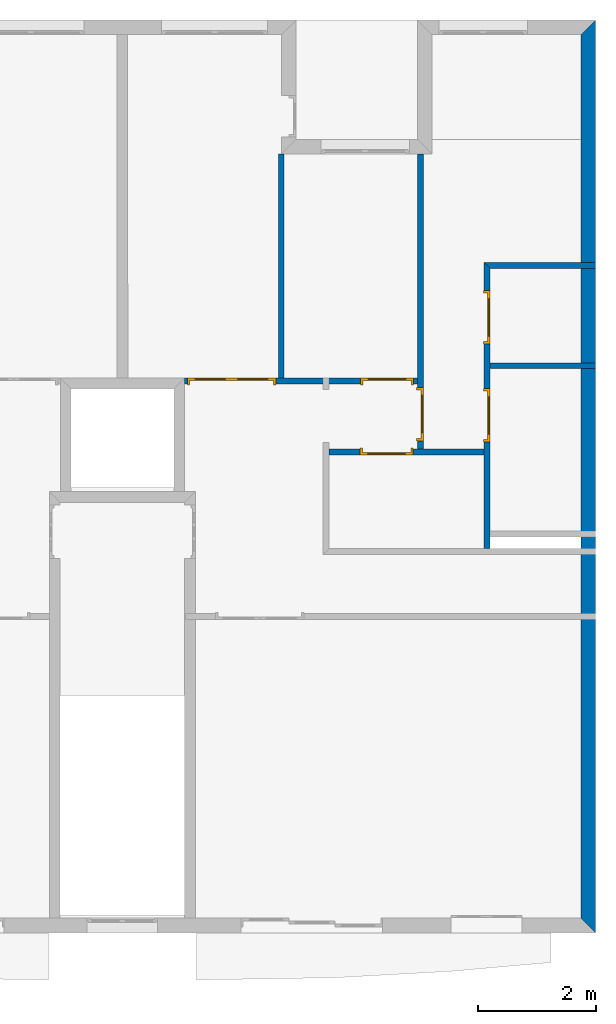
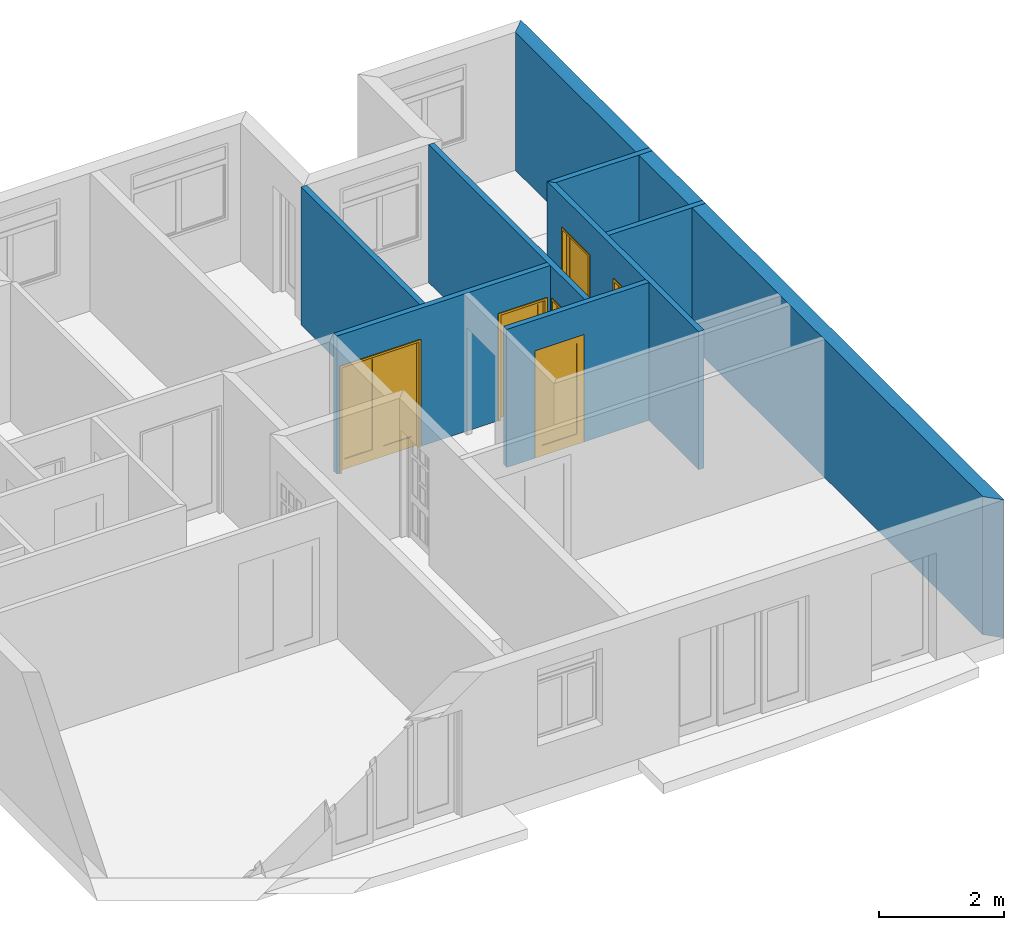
# One storey, part 9 of 11: 8 walls, 6 doors, 6 openings.
"""IFC2X3 building model written with IfcOpenShell, lengths in metres."""

from ifc_helpers import new_model, entity, si_unit, converted_unit, direction, frame, frame_2d, origin_with_axes, place, context, project, spatial, polyline, rectangle, outline, extrude, faceted_brep, source, transform, mapped, material, layer, layer_set, layer_usage, type_object, element, fill, save


model = new_model("IFC2X3")

# Units and contexts
context_of_model = context(None, 3, precision=1e-05, world=origin_with_axes(), true_north=direction((6.123234e-17, 1.0)))
plan_context = context("Plan", 3, precision=1e-05, world=origin_with_axes(), true_north=direction((6.123234e-17, 1.0)))
model_context = context("Model", 3, precision=1e-05, world=origin_with_axes(), true_north=direction((6.123234e-17, 1.0)))
ifc_project = project(units=[si_unit("LENGTHUNIT", "METRE"), si_unit("AREAUNIT", "SQUARE_METRE"), si_unit("VOLUMEUNIT", "CUBIC_METRE"), converted_unit("PLANEANGLEUNIT", "DEGREE", entity("IfcPlaneAngleMeasure", 0.017453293), si_unit("PLANEANGLEUNIT", "RADIAN"), dimensions=[0, 0, 0, 0, 0, 0, 0]), si_unit("SOLIDANGLEUNIT", "STERADIAN"), si_unit("MASSUNIT", "GRAM"), si_unit("TIMEUNIT", "SECOND"), si_unit("THERMODYNAMICTEMPERATUREUNIT", "DEGREE_CELSIUS"), si_unit("LUMINOUSINTENSITYUNIT", "LUMEN")], contexts=[context_of_model, plan_context, model_context])

# Site, building, storey
site_placement = place(None, origin_with_axes())
site = spatial("IfcSite", under=ifc_project, at=site_placement, Name="Por defecto Sitio", CompositionType="ELEMENT")
building_placement = place(site_placement, origin_with_axes())
building = spatial("IfcBuilding", under=site, at=building_placement, Name="Por defecto Edificio", CompositionType="ELEMENT")
storey_placement = place(building_placement, frame((0.0, 0.0, 13.2), z_axis=(0.0, 0.0, 1.0), x_axis=(1.0, 0.0, 0.0)))
storey = spatial("IfcBuildingStorey", under=building, at=storey_placement, Name="Cuarta", CompositionType="ELEMENT", Elevation=13.2)

# Walls
ifc_material_1 = material(Name="Doble 1:4")
ifc_layer_1 = layer(ifc_material_1, 0.25, ventilated="UNKNOWN")
ifc_layer_set_1 = layer_set([ifc_layer_1], Name="Doble 1:4")
ifc_layer_usage_1 = layer_usage(ifc_layer_set_1, "AXIS2", "NEGATIVE", 0.0)
wall_type_1 = type_object("IfcWallType", Name="Doble 1:4", PredefinedType="NOTDEFINED")
wall_1_placement = place(storey_placement, frame((16.03417, 15.472599, 0.0), z_axis=(0.0, 0.0, 1.0), x_axis=(-1.699138e-14, -1.0, 0.0)))
element("IfcWallStandardCase", 1, at=wall_1_placement, inside=storey, type_object=wall_type_1, material=ifc_layer_usage_1, Name="Muro-017", context=context_of_model, shape_type="SweptSolid", body=[
    extrude(outline(polyline([(0.25, -0.25), (15.222599, -0.25), (15.472599, 0.0), (0.0, 0.0), (0.25, -0.25)])), origin_with_axes(), (0.0, 0.0, 1.0), 2.7),
])
ifc_material_2 = material(Name="Ladrillo común")
ifc_layer_2 = layer(ifc_material_2, 0.1, ventilated="UNKNOWN")
ifc_layer_set_2 = layer_set([ifc_layer_2], Name="Ladrillo común")
ifc_layer_usage_2 = layer_usage(ifc_layer_set_2, "AXIS2", "NEGATIVE", 0.0)
wall_type_2 = type_object("IfcWallType", Name="Ladrillo común", PredefinedType="NOTDEFINED")
wall_2_placement = place(storey_placement, frame((10.656053, 9.4007615, 0.0), z_axis=(0.0, 0.0, 1.0), x_axis=(0.0, 1.0, 0.0)))
element("IfcWallStandardCase", 2, at=wall_2_placement, inside=storey, type_object=wall_type_2, material=ifc_layer_usage_2, Name="Muro-026", context=context_of_model, shape_type="SweptSolid", body=[
    extrude(outline(polyline([(0.0, -0.1), (3.7984111, -0.1), (3.7984111, 0.0), (0.0, 0.0), (0.0, -0.1)])), origin_with_axes(), (0.0, 0.0, 1.0), 2.7),
])

# Wall, openings, doors
ifc_layer_usage_3 = layer_usage(ifc_layer_set_2, "AXIS2", "NEGATIVE", 0.0)
wall_3_placement = place(storey_placement, frame((9.065, 9.4007615, 0.0), z_axis=(0.0, 0.0, 1.0), x_axis=(0.99999999, 0.00012707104, 0.0)))
wall_3 = element("IfcWallStandardCase", 3, at=wall_3_placement, inside=storey, type_object=wall_type_2, material=ifc_layer_usage_3, Name="Muro-025", context=context_of_model, shape_type="SweptSolid", body=[
    extrude(outline(polyline([(-1.2707104e-05, -0.1), (3.9502128, -0.1), (3.9502128, -1.7763568e-15), (0.0, 0.0), (-1.2707104e-05, -0.1)])), origin_with_axes(), (0.0, 0.0, 1.0), 2.7),
])
opening_1_placement = place(wall_3_placement, frame((0.79761164, -0.1, 0.0), z_axis=(0.0, 0.0, 1.0), x_axis=(1.0, 0.0, 0.0)))
opening_1 = element("IfcOpeningElement", 4, at=opening_1_placement, cuts=wall_3, ObjectType="Opening", context=model_context, shape_type="SweptSolid", body=[
    extrude(rectangle(XDim=1.5, YDim=2.1, at=frame_2d((-3.5527137e-15, 1.05), x_axis=(-1.0, 0.0))), frame((0.0, 0.0, 0.0), z_axis=(0.0, 1.0, 0.0), x_axis=(-1.0, 0.0, 0.0)), (0.0, 0.0, 1.0), 0.1),
])
opening_2_placement = place(wall_3_placement, frame((3.4353753, -0.1, 0.0), z_axis=(0.0, 0.0, 1.0), x_axis=(1.0, 0.0, 0.0)))
opening_2 = element("IfcOpeningElement", 5, at=opening_2_placement, cuts=wall_3, ObjectType="Opening", context=model_context, shape_type="SweptSolid", body=[
    extrude(rectangle(XDim=0.9, YDim=2.1, at=frame_2d((-8.8817842e-16, 1.05), x_axis=(-1.0, 0.0))), frame((0.0, 0.0, 0.0), z_axis=(0.0, 1.0, 0.0), x_axis=(-1.0, 0.0, 0.0)), (0.0, 0.0, 1.0), 0.1),
])
door_style_1 = type_object("IfcDoorStyle", Name="P1 12", ConstructionType="NOTDEFINED", OperationType="SINGLE_SWING_RIGHT", ParameterTakesPrecedence=False, Sizeable=False)
shared_shape_1 = source(origin_with_axes(), model_context, "Body", "Brep", [
    faceted_brep([(0.04, 0.075, -2.4492936e-18), (0.04, 0.075, 2.06), (0.04, -9.3258734e-14, 2.06), (0.04, -9.3258734e-14, -7.0417191e-18), (0.028, 0.075, 2.06), (0.028, 0.075, -2.4492936e-18), (0.028, 0.115, 2.06), (2.220446e-16, 0.115, 2.06), (1.7763568e-15, -9.4146912e-14, 2.06), (0.0, 0.0, 0.0), (2.220446e-16, 0.115, 3.3744595e-33), (0.028, 0.115, 3.2707143e-33)], [[[0, 1, 2, 3]], [[4, 1, 0, 5]], [[4, 6, 7, 8, 2, 1]], [[9, 3, 2, 8]], [[5, 0, 3, 9, 10, 11]], [[6, 4, 5, 11]], [[6, 11, 10, 7]], [[8, 7, 10, 9]]]),
    faceted_brep([(0.872, 0.075, 2.06), (0.86, 0.075, 2.06), (0.86, -8.0824236e-14, 2.06), (0.9, -7.9936058e-14, 2.06), (0.9, 0.115, 2.06), (0.872, 0.115, 2.06), (0.872, 0.075, -2.4492936e-18), (0.86, 0.075, -2.4492936e-18), (0.86, -8.0824236e-14, -7.0417191e-18), (0.9, -7.9936058e-14, -7.0417191e-18), (0.9, 0.115, -3.3744595e-33), (0.872, 0.115, -3.1644931e-33)], [[[0, 1, 2, 3, 4, 5]], [[1, 0, 6, 7]], [[1, 7, 8, 2]], [[8, 9, 3, 2]], [[9, 10, 4, 3]], [[11, 5, 4, 10]], [[0, 5, 11, 6]], [[6, 11, 10, 9, 8, 7]]]),
    faceted_brep([(0.028, 0.115, 2.072), (0.028, 0.115, 2.06), (2.220446e-16, 0.115, 2.06), (2.220446e-16, 0.115, 2.1), (0.9, 0.115, 2.1), (0.9, 0.115, 2.06), (0.872, 0.115, 2.06), (0.872, 0.115, 2.072), (0.028, 0.075, 2.072), (0.028, 0.075, 2.06), (0.04, 0.075, 2.06), (0.04, -9.3258734e-14, 2.06), (1.7763568e-15, -9.4146912e-14, 2.06), (1.7763568e-15, -9.4146912e-14, 2.1), (0.9, -7.9936058e-14, 2.1), (0.9, -7.9936058e-14, 2.06), (0.872, 0.075, 2.06), (0.86, -8.0824236e-14, 2.06), (0.86, 0.075, 2.06), (0.872, 0.075, 2.072)], [[[0, 1, 2, 3, 4, 5, 6, 7]], [[1, 0, 8, 9]], [[9, 10, 11, 12, 2, 1]], [[13, 3, 2, 12]], [[14, 4, 3, 13]], [[15, 5, 4, 14]], [[16, 6, 5, 15, 17, 18]], [[7, 6, 16, 19]], [[0, 7, 19, 8]], [[16, 18, 10, 9, 8, 19]], [[10, 18, 17, 11]], [[14, 13, 12, 11, 17, 15]]]),
    faceted_brep([(0.872, 0.115, 0.2), (0.872, 0.075, 0.2), (0.772, 0.075, 0.2), (0.772, 0.115, 0.2), (0.872, 0.115, 1.972), (0.872, 0.075, 1.972), (0.772, 0.075, 1.972), (0.772, 0.115, 1.972)], [[[0, 1, 2, 3]], [[4, 5, 1, 0]], [[1, 5, 6, 2]], [[3, 2, 6, 7]], [[0, 3, 7, 4]], [[7, 6, 5, 4]]]),
    faceted_brep([(0.028, 0.115, 0.2), (0.028, 0.075, 0.2), (0.028, 0.075, 1.972), (0.028, 0.115, 1.972), (0.128, 0.115, 0.2), (0.128, 0.075, 0.2), (0.128, 0.075, 1.972), (0.128, 0.115, 1.972)], [[[0, 1, 2, 3]], [[4, 5, 1, 0]], [[1, 5, 6, 2]], [[3, 2, 6, 7]], [[0, 3, 7, 4]], [[7, 6, 5, 4]]]),
    faceted_brep([(0.872, 0.115, -3.1644931e-33), (0.872, 0.075, -2.4492936e-18), (0.028, 0.075, -2.4492936e-18), (0.028, 0.115, 3.1644931e-33), (0.872, 0.115, 0.2), (0.872, 0.075, 0.2), (0.772, 0.075, 0.2), (0.128, 0.075, 0.2), (0.028, 0.075, 0.2), (0.028, 0.115, 0.2), (0.128, 0.115, 0.2), (0.772, 0.115, 0.2)], [[[0, 1, 2, 3]], [[4, 5, 1, 0]], [[1, 5, 6, 7, 8, 2]], [[3, 2, 8, 9]], [[0, 3, 9, 10, 11, 4]], [[11, 6, 5, 4]], [[10, 7, 6, 11]], [[9, 8, 7, 10]]]),
    faceted_brep([(0.872, 0.115, 2.072), (0.872, 0.075, 2.072), (0.872, 0.075, 1.972), (0.872, 0.115, 1.972), (0.028, 0.115, 2.072), (0.028, 0.075, 2.072), (0.028, 0.075, 1.972), (0.128, 0.075, 1.972), (0.772, 0.075, 1.972), (0.772, 0.115, 1.972), (0.128, 0.115, 1.972), (0.028, 0.115, 1.972)], [[[0, 1, 2, 3]], [[4, 5, 1, 0]], [[1, 5, 6, 7, 8, 2]], [[3, 2, 8, 9]], [[0, 3, 9, 10, 11, 4]], [[11, 6, 5, 4]], [[10, 7, 6, 11]], [[9, 8, 7, 10]]]),
    faceted_brep([(0.772, 0.101, 0.2), (0.772, 0.089, 0.2), (0.128, 0.089, 0.2), (0.128, 0.101, 0.2), (0.772, 0.101, 1.972), (0.772, 0.089, 1.972), (0.128, 0.089, 1.972), (0.128, 0.101, 1.972)], [[[0, 1, 2, 3]], [[4, 5, 1, 0]], [[1, 5, 6, 2]], [[3, 2, 6, 7]], [[0, 3, 7, 4]], [[7, 6, 5, 4]]]),
])
door_1_placement = place(opening_2_placement, frame((-0.45, -0.015, 0.0), z_axis=(0.0, 0.0, 1.0), x_axis=(1.0, 0.0, 0.0)))
door_1 = element("IfcDoor", 6, at=door_1_placement, inside=storey, type_object=door_style_1, Name="P23", OverallHeight=2.1, OverallWidth=0.9, context=model_context, shape_type="MappedRepresentation", body=[
    mapped(shared_shape_1, transform((0.0, 0.0, 0.0), scale=1.0)),
])
fill(opening_2, door_1)
door_style_2 = type_object("IfcDoorStyle", Name="P2 12", ConstructionType="NOTDEFINED", OperationType="DOUBLE_DOOR_SINGLE_SWING", ParameterTakesPrecedence=False, Sizeable=False)
shared_shape_2 = source(origin_with_axes(), model_context, "Body", "Brep", [
    faceted_brep([(1.46, 0.075, 0.0), (1.46, 1.7763568e-15, 0.0), (1.46, 1.7763568e-15, 2.06), (1.46, 0.075, 2.06), (1.472, 0.075, 0.0), (1.472, 0.115, 0.0), (1.5, 0.115, 0.0), (1.5, 1.7763568e-15, 0.0), (1.5, 1.7763568e-15, 2.06), (1.472, 0.075, 2.06), (1.5, 0.115, 2.06), (1.472, 0.115, 2.06)], [[[0, 1, 2, 3]], [[4, 5, 6, 7, 1, 0]], [[7, 8, 2, 1]], [[9, 3, 2, 8, 10, 11]], [[9, 4, 0, 3]], [[11, 5, 4, 9]], [[11, 10, 6, 5]], [[8, 7, 6, 10]]]),
    faceted_brep([(0.028, 0.075, 2.06), (0.028, 0.115, 2.06), (1.7763568e-15, 0.115, 2.06), (-1.7763568e-15, 0.0, 2.06), (0.04, 1.7763568e-15, 2.06), (0.04, 0.075, 2.06), (0.028, 0.075, 0.0), (0.028, 0.115, 0.0), (1.7763568e-15, 0.115, 0.0), (0.0, 0.0, 0.0), (0.04, 1.7763568e-15, 0.0), (0.04, 0.075, 0.0)], [[[0, 1, 2, 3, 4, 5]], [[0, 6, 7, 1]], [[7, 8, 2, 1]], [[9, 3, 2, 8]], [[10, 4, 3, 9]], [[5, 4, 10, 11]], [[5, 11, 6, 0]], [[6, 11, 10, 9, 8, 7]]]),
    faceted_brep([(1.472, 0.115, 2.072), (0.028, 0.115, 2.072), (0.028, 0.115, 2.06), (1.7763568e-15, 0.115, 2.06), (1.7763568e-15, 0.115, 2.1), (1.5, 0.115, 2.1), (1.5, 0.115, 2.06), (1.472, 0.115, 2.06), (1.472, 0.075, 2.072), (0.028, 0.075, 2.072), (0.028, 0.075, 2.06), (0.04, 0.075, 2.06), (0.04, 1.7763568e-15, 2.06), (-1.7763568e-15, 0.0, 2.06), (-1.7763568e-15, 0.0, 2.1), (1.5, 1.7763568e-15, 2.1), (1.5, 1.7763568e-15, 2.06), (1.472, 0.075, 2.06), (1.46, 1.7763568e-15, 2.06), (1.46, 0.075, 2.06)], [[[0, 1, 2, 3, 4, 5, 6, 7]], [[0, 8, 9, 1]], [[1, 9, 10, 2]], [[10, 11, 12, 13, 3, 2]], [[13, 14, 4, 3]], [[14, 15, 5, 4]], [[15, 16, 6, 5]], [[17, 7, 6, 16, 18, 19]], [[7, 17, 8, 0]], [[10, 9, 8, 17, 19, 11]], [[19, 18, 12, 11]], [[14, 13, 12, 18, 16, 15]]]),
    faceted_brep([(0.028, 0.115, 0.2), (0.128, 0.115, 0.2), (0.128, 0.075, 0.2), (0.028, 0.075, 0.2), (0.028, 0.115, 1.972), (0.128, 0.115, 1.972), (0.128, 0.075, 1.972), (0.028, 0.075, 1.972)], [[[0, 1, 2, 3]], [[0, 4, 5, 1]], [[1, 5, 6, 2]], [[3, 2, 6, 7]], [[4, 0, 3, 7]], [[5, 4, 7, 6]]]),
    faceted_brep([(0.749, 0.115, 0.2), (0.749, 0.115, 1.972), (0.749, 0.075, 1.972), (0.749, 0.075, 0.2), (0.649, 0.115, 0.2), (0.649, 0.115, 1.972), (0.649, 0.075, 1.972), (0.649, 0.075, 0.2)], [[[0, 1, 2, 3]], [[0, 4, 5, 1]], [[1, 5, 6, 2]], [[3, 2, 6, 7]], [[4, 0, 3, 7]], [[5, 4, 7, 6]]]),
    faceted_brep([(0.028, 0.115, 0.0), (0.749, 0.115, 0.0), (0.749, 0.075, 0.0), (0.028, 0.075, 0.0), (0.028, 0.115, 0.2), (0.128, 0.115, 0.2), (0.649, 0.115, 0.2), (0.749, 0.115, 0.2), (0.749, 0.075, 0.2), (0.649, 0.075, 0.2), (0.128, 0.075, 0.2), (0.028, 0.075, 0.2)], [[[0, 1, 2, 3]], [[0, 4, 5, 6, 7, 1]], [[1, 7, 8, 2]], [[3, 2, 8, 9, 10, 11]], [[4, 0, 3, 11]], [[5, 4, 11, 10]], [[6, 5, 10, 9]], [[7, 6, 9, 8]]]),
    faceted_brep([(0.028, 0.115, 2.072), (0.028, 0.115, 1.972), (0.028, 0.075, 1.972), (0.028, 0.075, 2.072), (0.749, 0.115, 2.072), (0.749, 0.115, 1.972), (0.649, 0.115, 1.972), (0.128, 0.115, 1.972), (0.128, 0.075, 1.972), (0.649, 0.075, 1.972), (0.749, 0.075, 1.972), (0.749, 0.075, 2.072)], [[[0, 1, 2, 3]], [[0, 4, 5, 6, 7, 1]], [[1, 7, 8, 2]], [[3, 2, 8, 9, 10, 11]], [[4, 0, 3, 11]], [[5, 4, 11, 10]], [[6, 5, 10, 9]], [[7, 6, 9, 8]]]),
    faceted_brep([(0.128, 0.101, 0.2), (0.649, 0.101, 0.2), (0.649, 0.089, 0.2), (0.128, 0.089, 0.2), (0.128, 0.101, 1.972), (0.649, 0.101, 1.972), (0.649, 0.089, 1.972), (0.128, 0.089, 1.972)], [[[0, 1, 2, 3]], [[0, 4, 5, 1]], [[1, 5, 6, 2]], [[3, 2, 6, 7]], [[4, 0, 3, 7]], [[5, 4, 7, 6]]]),
    faceted_brep([(1.472, 0.115, 0.2), (1.472, 0.075, 0.2), (1.372, 0.075, 0.2), (1.372, 0.115, 0.2), (1.472, 0.115, 1.972), (1.472, 0.075, 1.972), (1.372, 0.075, 1.972), (1.372, 0.115, 1.972)], [[[0, 1, 2, 3]], [[4, 5, 1, 0]], [[1, 5, 6, 2]], [[3, 2, 6, 7]], [[0, 3, 7, 4]], [[7, 6, 5, 4]]]),
    faceted_brep([(0.751, 0.115, 0.2), (0.751, 0.075, 0.2), (0.751, 0.075, 1.972), (0.751, 0.115, 1.972), (0.851, 0.115, 0.2), (0.851, 0.075, 0.2), (0.851, 0.075, 1.972), (0.851, 0.115, 1.972)], [[[0, 1, 2, 3]], [[4, 5, 1, 0]], [[1, 5, 6, 2]], [[3, 2, 6, 7]], [[0, 3, 7, 4]], [[7, 6, 5, 4]]]),
    faceted_brep([(1.472, 0.115, 0.0), (1.472, 0.075, 0.0), (0.751, 0.075, 0.0), (0.751, 0.115, 0.0), (1.472, 0.115, 0.2), (1.472, 0.075, 0.2), (1.372, 0.075, 0.2), (0.851, 0.075, 0.2), (0.751, 0.075, 0.2), (0.751, 0.115, 0.2), (0.851, 0.115, 0.2), (1.372, 0.115, 0.2)], [[[0, 1, 2, 3]], [[4, 5, 1, 0]], [[1, 5, 6, 7, 8, 2]], [[3, 2, 8, 9]], [[0, 3, 9, 10, 11, 4]], [[11, 6, 5, 4]], [[10, 7, 6, 11]], [[9, 8, 7, 10]]]),
    faceted_brep([(1.472, 0.115, 2.072), (1.472, 0.075, 2.072), (1.472, 0.075, 1.972), (1.472, 0.115, 1.972), (0.751, 0.115, 2.072), (0.751, 0.075, 2.072), (0.751, 0.075, 1.972), (0.851, 0.075, 1.972), (1.372, 0.075, 1.972), (1.372, 0.115, 1.972), (0.851, 0.115, 1.972), (0.751, 0.115, 1.972)], [[[0, 1, 2, 3]], [[4, 5, 1, 0]], [[1, 5, 6, 7, 8, 2]], [[3, 2, 8, 9]], [[0, 3, 9, 10, 11, 4]], [[11, 6, 5, 4]], [[10, 7, 6, 11]], [[9, 8, 7, 10]]]),
    faceted_brep([(1.372, 0.101, 0.2), (1.372, 0.089, 0.2), (0.851, 0.089, 0.2), (0.851, 0.101, 0.2), (1.372, 0.101, 1.972), (1.372, 0.089, 1.972), (0.851, 0.089, 1.972), (0.851, 0.101, 1.972)], [[[0, 1, 2, 3]], [[4, 5, 1, 0]], [[1, 5, 6, 2]], [[3, 2, 6, 7]], [[0, 3, 7, 4]], [[7, 6, 5, 4]]]),
])
door_2_placement = place(opening_1_placement, frame((-0.75, -0.015, 0.0), z_axis=(0.0, 0.0, 1.0), x_axis=(1.0, 0.0, 0.0)))
door_2 = element("IfcDoor", 7, at=door_2_placement, inside=storey, type_object=door_style_2, Name="P28", OverallHeight=2.1, OverallWidth=1.5, context=model_context, shape_type="MappedRepresentation", body=[
    mapped(shared_shape_2, transform((0.0, 0.0, 0.0), scale=1.0)),
])
fill(opening_1, door_2)

# Wall, opening, door
ifc_layer_usage_4 = layer_usage(ifc_layer_set_2, "AXIS2", "NEGATIVE", 0.0)
wall_4_placement = place(storey_placement, frame((13.015324, 8.2017295, 0.0), z_axis=(0.0, 0.0, 1.0), x_axis=(-0.00022000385, 0.99999998, 0.0)))
wall_4 = element("IfcWallStandardCase", 8, at=wall_4_placement, inside=storey, type_object=wall_type_2, material=ifc_layer_usage_4, Name="Muro-024", context=context_of_model, shape_type="SweptSolid", body=[
    extrude(outline(polyline([(-1.2703415e-05, -0.1), (4.9974212, -0.1), (4.9974432, -1.7763568e-15), (3.5527137e-15, 0.0), (-1.2703415e-05, -0.1)])), origin_with_axes(), (0.0, 0.0, 1.0), 2.7),
])
opening_3_placement = place(wall_4_placement, frame((0.5886447, -0.1, 0.0), z_axis=(0.0, 0.0, 1.0), x_axis=(1.0, 0.0, 0.0)))
opening_3 = element("IfcOpeningElement", 9, at=opening_3_placement, cuts=wall_4, ObjectType="Opening", context=model_context, shape_type="SweptSolid", body=[
    extrude(rectangle(XDim=0.9, YDim=2.1, at=frame_2d((0.0, 1.05), x_axis=(-1.0, 0.0))), frame((0.0, 0.0, 0.0), z_axis=(0.0, 1.0, 0.0), x_axis=(-1.0, 0.0, 0.0)), (0.0, 0.0, 1.0), 0.1),
])
door_style_3 = type_object("IfcDoorStyle", Name="P1 12", ConstructionType="NOTDEFINED", OperationType="SINGLE_SWING_RIGHT", ParameterTakesPrecedence=False, Sizeable=False)
door_3_placement = place(opening_3_placement, frame((0.45, 0.115, 0.0), z_axis=(0.0, 0.0, 1.0), x_axis=(-1.0, 0.0, 0.0)))
door_3 = element("IfcDoor", 10, at=door_3_placement, inside=storey, type_object=door_style_3, Name="P22", OverallHeight=2.1, OverallWidth=0.9, context=model_context, shape_type="MappedRepresentation", body=[
    mapped(shared_shape_1, transform((0.0, 0.0, 0.0), scale=1.0)),
])
fill(opening_3, door_3)

# Walls
ifc_layer_usage_5 = layer_usage(ifc_layer_set_2, "AXIS2", "POSITIVE", 0.0)
wall_5_placement = place(storey_placement, frame((14.245066, 9.5615835, 0.0), z_axis=(0.0, 0.0, 1.0), x_axis=(1.0, 7.5775334e-05, 0.0)))
element("IfcWallStandardCase", 11, at=wall_5_placement, inside=storey, type_object=wall_type_2, material=ifc_layer_usage_5, Name="Muro-023", context=context_of_model, shape_type="SweptSolid", body=[
    extrude(outline(polyline([(0.0, 0.0), (1.7904599, 1.7763568e-15), (1.7904599, 0.1), (0.0, 0.1), (0.0, 0.0)])), origin_with_axes(), (0.0, 0.0, 1.0), 2.7),
])
ifc_layer_usage_6 = layer_usage(ifc_layer_set_2, "AXIS2", "POSITIVE", 0.0)
wall_6_placement = place(storey_placement, frame((14.244885, 11.261583, 0.0), z_axis=(0.0, 0.0, 1.0), x_axis=(1.0, 7.5775334e-05, 0.0)))
element("IfcWallStandardCase", 12, at=wall_6_placement, inside=storey, type_object=wall_type_2, material=ifc_layer_usage_6, Name="Muro-022", context=context_of_model, shape_type="SweptSolid", body=[
    extrude(outline(polyline([(1.7763568e-15, 0.0), (1.7905123, 0.0), (1.7905123, 0.1), (-0.10000221, 0.1), (1.7763568e-15, 0.0)])), origin_with_axes(), (0.0, 0.0, 1.0), 2.7),
])

# Wall, opening, door
ifc_layer_usage_7 = layer_usage(ifc_layer_set_2, "AXIS2", "NEGATIVE", 0.0)
wall_7_placement = place(storey_placement, frame((11.515376, 8.20159, 0.0), z_axis=(0.0, 0.0, 1.0), x_axis=(1.0, 9.2969701e-05, 0.0)))
wall_7 = element("IfcWallStandardCase", 13, at=wall_7_placement, inside=storey, type_object=wall_type_2, material=ifc_layer_usage_7, Name="Muro-024", context=context_of_model, shape_type="SweptSolid", body=[
    extrude(outline(polyline([(3.5527137e-15, -0.1), (2.6298085, -0.1), (2.629808, 1.7763568e-15), (0.0, 0.0), (3.5527137e-15, -0.1)])), origin_with_axes(), (0.0, 0.0, 1.0), 2.7),
])
opening_4_placement = place(wall_7_placement, frame((0.97653216, -0.1, 0.0), z_axis=(0.0, 0.0, 1.0), x_axis=(1.0, 0.0, 0.0)))
opening_4 = element("IfcOpeningElement", 14, at=opening_4_placement, cuts=wall_7, ObjectType="Opening", context=model_context, shape_type="SweptSolid", body=[
    extrude(rectangle(XDim=0.9, YDim=2.1, at=frame_2d((8.8817842e-16, 1.05), x_axis=(-1.0, 0.0))), frame((0.0, 0.0, 0.0), z_axis=(0.0, 1.0, 0.0), x_axis=(-1.0, 0.0, 0.0)), (0.0, 0.0, 1.0), 0.1),
])
door_style_4 = type_object("IfcDoorStyle", Name="P1 12", ConstructionType="NOTDEFINED", OperationType="SINGLE_SWING_LEFT", ParameterTakesPrecedence=False, Sizeable=False)
shared_shape_3 = source(origin_with_axes(), model_context, "Body", "Brep", [
    faceted_brep([(0.86, 0.075, -3.6739404e-18), (0.86, 0.0, 9.184851e-19), (0.86, 0.0, 2.06), (0.86, 0.075, 2.06), (0.872, 0.075, -3.6739404e-18), (0.872, 0.115, -6.123234e-18), (0.9, 0.115, -6.123234e-18), (0.9, 0.0, 9.184851e-19), (0.9, 0.0, 2.06), (0.872, 0.075, 2.06), (0.9, 0.115, 2.06), (0.872, 0.115, 2.06)], [[[0, 1, 2, 3]], [[4, 5, 6, 7, 1, 0]], [[7, 8, 2, 1]], [[9, 3, 2, 8, 10, 11]], [[9, 4, 0, 3]], [[11, 5, 4, 9]], [[11, 10, 6, 5]], [[8, 7, 6, 10]]]),
    faceted_brep([(0.028, 0.075, 2.06), (0.028, 0.115, 2.06), (0.0, 0.115, 2.06), (0.0, 0.0, 2.06), (0.04, 0.0, 2.06), (0.04, 0.075, 2.06), (0.028, 0.075, -3.6739404e-18), (0.028, 0.115, -6.123234e-18), (0.0, 0.115, -6.123234e-18), (0.0, 0.0, 0.0), (0.04, 0.0, 9.184851e-19), (0.04, 0.075, -3.6739404e-18)], [[[0, 1, 2, 3, 4, 5]], [[0, 6, 7, 1]], [[7, 8, 2, 1]], [[9, 3, 2, 8]], [[10, 4, 3, 9]], [[5, 4, 10, 11]], [[5, 11, 6, 0]], [[6, 11, 10, 9, 8, 7]]]),
    faceted_brep([(0.872, 0.115, 2.072), (0.028, 0.115, 2.072), (0.028, 0.115, 2.06), (0.0, 0.115, 2.06), (0.0, 0.115, 2.1), (0.9, 0.115, 2.1), (0.9, 0.115, 2.06), (0.872, 0.115, 2.06), (0.872, 0.075, 2.072), (0.028, 0.075, 2.072), (0.028, 0.075, 2.06), (0.04, 0.075, 2.06), (0.04, 0.0, 2.06), (0.0, 0.0, 2.06), (0.0, 0.0, 2.1), (0.9, 0.0, 2.1), (0.9, 0.0, 2.06), (0.872, 0.075, 2.06), (0.86, 0.0, 2.06), (0.86, 0.075, 2.06)], [[[0, 1, 2, 3, 4, 5, 6, 7]], [[0, 8, 9, 1]], [[1, 9, 10, 2]], [[10, 11, 12, 13, 3, 2]], [[13, 14, 4, 3]], [[14, 15, 5, 4]], [[15, 16, 6, 5]], [[17, 7, 6, 16, 18, 19]], [[7, 17, 8, 0]], [[10, 9, 8, 17, 19, 11]], [[19, 18, 12, 11]], [[14, 13, 12, 18, 16, 15]]]),
    faceted_brep([(0.028, 0.115, 0.2), (0.128, 0.115, 0.2), (0.128, 0.075, 0.2), (0.028, 0.075, 0.2), (0.028, 0.115, 1.972), (0.128, 0.115, 1.972), (0.128, 0.075, 1.972), (0.028, 0.075, 1.972)], [[[0, 1, 2, 3]], [[0, 4, 5, 1]], [[1, 5, 6, 2]], [[3, 2, 6, 7]], [[4, 0, 3, 7]], [[5, 4, 7, 6]]]),
    faceted_brep([(0.872, 0.115, 0.2), (0.872, 0.115, 1.972), (0.872, 0.075, 1.972), (0.872, 0.075, 0.2), (0.772, 0.115, 0.2), (0.772, 0.115, 1.972), (0.772, 0.075, 1.972), (0.772, 0.075, 0.2)], [[[0, 1, 2, 3]], [[0, 4, 5, 1]], [[1, 5, 6, 2]], [[3, 2, 6, 7]], [[4, 0, 3, 7]], [[5, 4, 7, 6]]]),
    faceted_brep([(0.028, 0.115, -6.123234e-18), (0.872, 0.115, -6.123234e-18), (0.872, 0.075, -3.6739404e-18), (0.028, 0.075, -3.6739404e-18), (0.028, 0.115, 0.2), (0.128, 0.115, 0.2), (0.772, 0.115, 0.2), (0.872, 0.115, 0.2), (0.872, 0.075, 0.2), (0.772, 0.075, 0.2), (0.128, 0.075, 0.2), (0.028, 0.075, 0.2)], [[[0, 1, 2, 3]], [[0, 4, 5, 6, 7, 1]], [[1, 7, 8, 2]], [[3, 2, 8, 9, 10, 11]], [[4, 0, 3, 11]], [[5, 4, 11, 10]], [[6, 5, 10, 9]], [[7, 6, 9, 8]]]),
    faceted_brep([(0.028, 0.115, 2.072), (0.028, 0.115, 1.972), (0.028, 0.075, 1.972), (0.028, 0.075, 2.072), (0.872, 0.115, 2.072), (0.872, 0.115, 1.972), (0.772, 0.115, 1.972), (0.128, 0.115, 1.972), (0.128, 0.075, 1.972), (0.772, 0.075, 1.972), (0.872, 0.075, 1.972), (0.872, 0.075, 2.072)], [[[0, 1, 2, 3]], [[0, 4, 5, 6, 7, 1]], [[1, 7, 8, 2]], [[3, 2, 8, 9, 10, 11]], [[4, 0, 3, 11]], [[5, 4, 11, 10]], [[6, 5, 10, 9]], [[7, 6, 9, 8]]]),
    faceted_brep([(0.128, 0.101, 0.2), (0.772, 0.101, 0.2), (0.772, 0.089, 0.2), (0.128, 0.089, 0.2), (0.128, 0.101, 1.972), (0.772, 0.101, 1.972), (0.772, 0.089, 1.972), (0.128, 0.089, 1.972)], [[[0, 1, 2, 3]], [[0, 4, 5, 1]], [[1, 5, 6, 2]], [[3, 2, 6, 7]], [[4, 0, 3, 7]], [[5, 4, 7, 6]]]),
])
door_4_placement = place(opening_4_placement, frame((0.45, 0.115, 0.0), z_axis=(0.0, 0.0, 1.0), x_axis=(-1.0, 0.0, 0.0)))
door_4 = element("IfcDoor", 15, at=door_4_placement, inside=storey, type_object=door_style_4, Name="P21", OverallHeight=2.1, OverallWidth=0.9, context=model_context, shape_type="MappedRepresentation", body=[
    mapped(shared_shape_3, transform((0.0, 0.0, 0.0), scale=1.0)),
])
fill(opening_4, door_4)

# Wall, openings, doors
ifc_layer_usage_8 = layer_usage(ifc_layer_set_2, "AXIS2", "NEGATIVE", 0.0)
wall_8_placement = place(storey_placement, frame((14.244885, 11.261583, 0.0), z_axis=(0.0, 0.0, 1.0), x_axis=(9.784722e-05, -1.0, 0.0)))
wall_8 = element("IfcWallStandardCase", 16, at=wall_8_placement, inside=storey, type_object=wall_type_2, material=ifc_layer_usage_8, Name="Muro-022", context=context_of_model, shape_type="SweptSolid", body=[
    extrude(outline(polyline([(-0.10000221, -0.1), (4.7497844, -0.1), (4.7497866, 1.7763568e-15), (1.7763568e-15, 0.0), (-0.10000221, -0.1)])), origin_with_axes(), (0.0, 0.0, 1.0), 2.7),
])
opening_5_placement = place(wall_8_placement, frame((2.4892688, -0.1, 0.0), z_axis=(0.0, 0.0, 1.0), x_axis=(1.0, 0.0, 0.0)))
opening_5 = element("IfcOpeningElement", 17, at=opening_5_placement, cuts=wall_8, ObjectType="Opening", context=model_context, shape_type="SweptSolid", body=[
    extrude(rectangle(XDim=0.9, YDim=2.1, at=frame_2d((8.8817842e-16, 1.05), x_axis=(-1.0, 0.0))), frame((0.0, 0.0, 0.0), z_axis=(0.0, 1.0, 0.0), x_axis=(-1.0, 0.0, 0.0)), (0.0, 0.0, 1.0), 0.1),
])
opening_6_placement = place(wall_8_placement, frame((0.827993, -0.1, 0.0), z_axis=(0.0, 0.0, 1.0), x_axis=(1.0, 0.0, 0.0)))
opening_6 = element("IfcOpeningElement", 18, at=opening_6_placement, cuts=wall_8, ObjectType="Opening", context=model_context, shape_type="SweptSolid", body=[
    extrude(rectangle(XDim=0.9, YDim=2.1, at=frame_2d((8.8817842e-16, 1.05), x_axis=(-1.0, 0.0))), frame((0.0, 0.0, 0.0), z_axis=(0.0, 1.0, 0.0), x_axis=(-1.0, 0.0, 0.0)), (0.0, 0.0, 1.0), 0.1),
])
door_style_5 = type_object("IfcDoorStyle", Name="P1 12", ConstructionType="NOTDEFINED", OperationType="SINGLE_SWING_RIGHT", ParameterTakesPrecedence=False, Sizeable=False)
door_5_placement = place(opening_5_placement, frame((-0.45, -0.015, 0.0), z_axis=(0.0, 0.0, 1.0), x_axis=(1.0, 0.0, 0.0)))
door_5 = element("IfcDoor", 19, at=door_5_placement, inside=storey, type_object=door_style_5, Name="P24", OverallHeight=2.1, OverallWidth=0.9, context=model_context, shape_type="MappedRepresentation", body=[
    mapped(shared_shape_1, transform((0.0, 0.0, 0.0), scale=1.0)),
])
fill(opening_5, door_5)
door_style_6 = type_object("IfcDoorStyle", Name="P1 12", ConstructionType="NOTDEFINED", OperationType="SINGLE_SWING_RIGHT", ParameterTakesPrecedence=False, Sizeable=False)
door_6_placement = place(opening_6_placement, frame((-0.45, -0.015, 0.0), z_axis=(0.0, 0.0, 1.0), x_axis=(1.0, 0.0, 0.0)))
door_6 = element("IfcDoor", 20, at=door_6_placement, inside=storey, type_object=door_style_6, Name="P25", OverallHeight=2.1, OverallWidth=0.9, context=model_context, shape_type="MappedRepresentation", body=[
    mapped(shared_shape_1, transform((0.0, 0.0, 0.0), scale=1.0)),
])
fill(opening_6, door_6)

save(model, "model.ifc")
